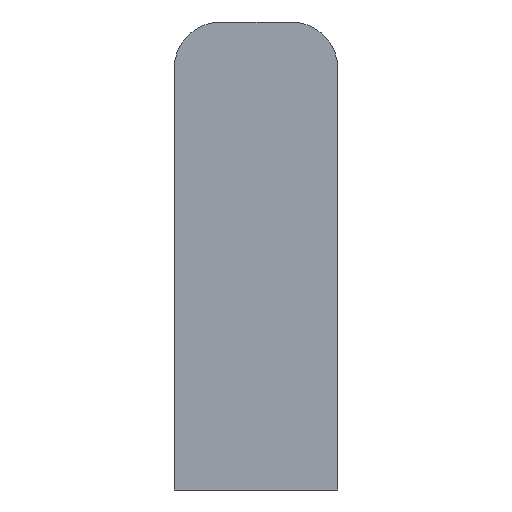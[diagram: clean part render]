
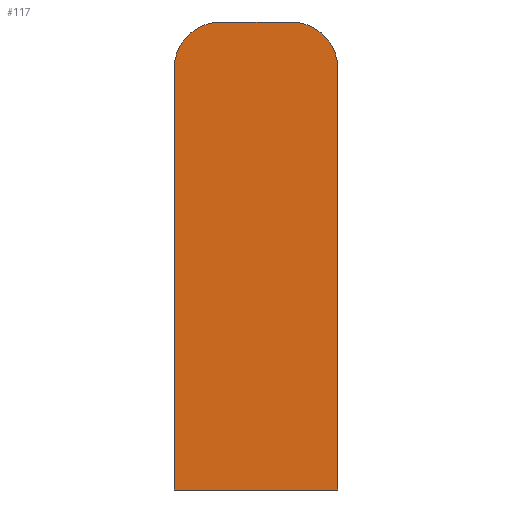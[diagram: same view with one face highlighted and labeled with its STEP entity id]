
A CAD part, front view. The second image highlights one B-rep face of the part: STEP entity #117.
In plain terms, the highlighted planar face has unit normal (0, -1, 0).
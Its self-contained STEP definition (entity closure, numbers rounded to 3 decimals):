
#5 = VERTEX_POINT ( 'NONE', #9 ) ;
#9 = CARTESIAN_POINT ( 'NONE',  ( 5.25, 0., -16.5 ) ) ;
#19 = ORIENTED_EDGE ( 'NONE', *, *, #205, .T. ) ;
#35 = LINE ( 'NONE', #306, #36 ) ;
#36 = VECTOR ( 'NONE', #307, 1000. ) ;
#37 = FACE_OUTER_BOUND ( 'NONE', #39, .T. ) ;
#39 = EDGE_LOOP ( 'NONE', ( #45, #69, #93, #53, #54, #19 ) ) ;
#45 = ORIENTED_EDGE ( 'NONE', *, *, #202, .T. ) ;
#53 = ORIENTED_EDGE ( 'NONE', *, *, #214, .T. ) ;
#54 = ORIENTED_EDGE ( 'NONE', *, *, #200, .T. ) ;
#69 = ORIENTED_EDGE ( 'NONE', *, *, #189, .T. ) ;
#93 = ORIENTED_EDGE ( 'NONE', *, *, #175, .T. ) ;
#117 = ADVANCED_FACE ( 'NONE', ( #37 ), #275, .F. ) ;
#135 = CIRCLE ( 'NONE', #229, 3. ) ;
#175 = EDGE_CURVE ( 'NONE', #255, #355, #35, .T. ) ;
#176 = AXIS2_PLACEMENT_3D ( 'NONE', #321, #322, #323 ) ;
#189 = EDGE_CURVE ( 'NONE', #254, #255, #249, .T. ) ;
#200 = EDGE_CURVE ( 'NONE', #347, #260, #252, .T. ) ;
#202 = EDGE_CURVE ( 'NONE', #5, #254, #238, .T. ) ;
#205 = EDGE_CURVE ( 'NONE', #260, #5, #245, .T. ) ;
#214 = EDGE_CURVE ( 'NONE', #355, #347, #135, .T. ) ;
#223 = AXIS2_PLACEMENT_3D ( 'NONE', #274, #277, #278 ) ;
#229 = AXIS2_PLACEMENT_3D ( 'NONE', #342, #365, #366 ) ;
#236 = VECTOR ( 'NONE', #332, 1000. ) ;
#238 = LINE ( 'NONE', #346, #244 ) ;
#243 = VECTOR ( 'NONE', #344, 1000. ) ;
#244 = VECTOR ( 'NONE', #333, 1000. ) ;
#245 = LINE ( 'NONE', #331, #236 ) ;
#249 = CIRCLE ( 'NONE', #176, 3. ) ;
#252 = LINE ( 'NONE', #340, #243 ) ;
#254 = VERTEX_POINT ( 'NONE', #382 ) ;
#255 = VERTEX_POINT ( 'NONE', #379 ) ;
#260 = VERTEX_POINT ( 'NONE', #388 ) ;
#274 = CARTESIAN_POINT ( 'NONE',  ( 0., 0., -1.5 ) ) ;
#275 = PLANE ( 'NONE',  #223 ) ;
#277 = DIRECTION ( 'NONE',  ( 0., 1., 0. ) ) ;
#278 = DIRECTION ( 'NONE',  ( -1., 0., 0. ) ) ;
#306 = CARTESIAN_POINT ( 'NONE',  ( 2.25, 0., 13.5 ) ) ;
#307 = DIRECTION ( 'NONE',  ( -1., 0., 0. ) ) ;
#321 = CARTESIAN_POINT ( 'NONE',  ( 2.25, 0., 10.5 ) ) ;
#322 = DIRECTION ( 'NONE',  ( 0., -1., 0. ) ) ;
#323 = DIRECTION ( 'NONE',  ( -1., 0., 0. ) ) ;
#331 = CARTESIAN_POINT ( 'NONE',  ( 5.25, 0., -16.5 ) ) ;
#332 = DIRECTION ( 'NONE',  ( 1., 0., 0. ) ) ;
#333 = DIRECTION ( 'NONE',  ( 0., 0., 1. ) ) ;
#340 = CARTESIAN_POINT ( 'NONE',  ( -5.25, 0., -16.5 ) ) ;
#342 = CARTESIAN_POINT ( 'NONE',  ( -2.25, 0., 10.5 ) ) ;
#344 = DIRECTION ( 'NONE',  ( 0., 0., -1. ) ) ;
#346 = CARTESIAN_POINT ( 'NONE',  ( 5.25, 0., -16.5 ) ) ;
#347 = VERTEX_POINT ( 'NONE', #394 ) ;
#355 = VERTEX_POINT ( 'NONE', #397 ) ;
#365 = DIRECTION ( 'NONE',  ( 0., -1., 0. ) ) ;
#366 = DIRECTION ( 'NONE',  ( -1., 0., 0. ) ) ;
#379 = CARTESIAN_POINT ( 'NONE',  ( 2.25, 0., 13.5 ) ) ;
#382 = CARTESIAN_POINT ( 'NONE',  ( 5.25, 0., 10.5 ) ) ;
#388 = CARTESIAN_POINT ( 'NONE',  ( -5.25, 0., -16.5 ) ) ;
#394 = CARTESIAN_POINT ( 'NONE',  ( -5.25, 0., 10.5 ) ) ;
#397 = CARTESIAN_POINT ( 'NONE',  ( -2.25, 0., 13.5 ) ) ;
